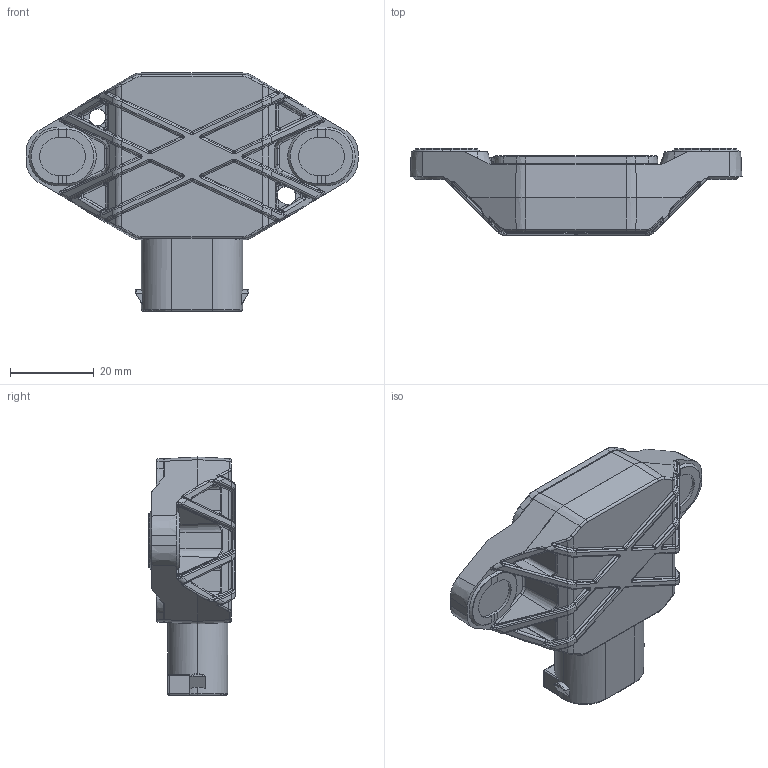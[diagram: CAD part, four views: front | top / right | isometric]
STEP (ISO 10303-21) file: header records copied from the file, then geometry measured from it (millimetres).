
FILE_DESCRIPTION (( 'STEP AP203' ), '1' );
FILE_NAME ('302195_GA6 40.STEP', '2026-09-15T13:51:55', ( '' ), ( '' ), 'SwSTEP 2.0', 'SolidWorks 2025', '' );
FILE_SCHEMA (( 'CONFIG_CONTROL_DESIGN' ));
Products named in the file (1): 302195_GA6 40
Bounding box: 79.48 x 20.8 x 57 mm (x, y, z)
Volume: 34163.7 mm3; surface area: 11456.2 mm2
Topology: 1 solids, 1 shells, 1207 faces, 3000 edges, 1797 vertices
Faces by surface type: plane 449, cylinder 350, bspline 259, cone 89, torus 54, sphere 6
Entity records: 43000 total; most frequent: CARTESIAN_POINT 16737, ORIENTED_EDGE 5940, DIRECTION 4943, EDGE_CURVE 2970, VERTEX_POINT 1797, AXIS2_PLACEMENT_3D 1722, LINE 1499, VECTOR 1499
